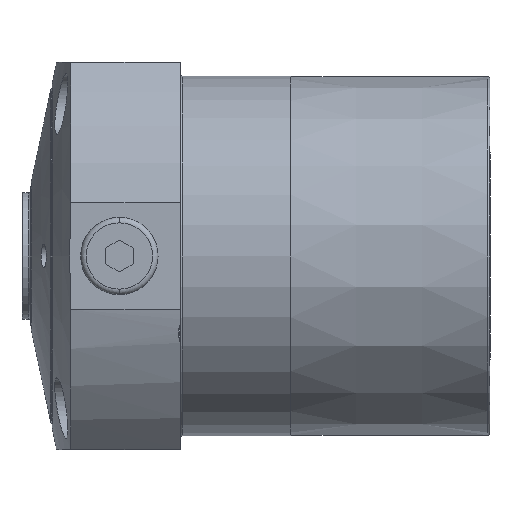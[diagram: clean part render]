
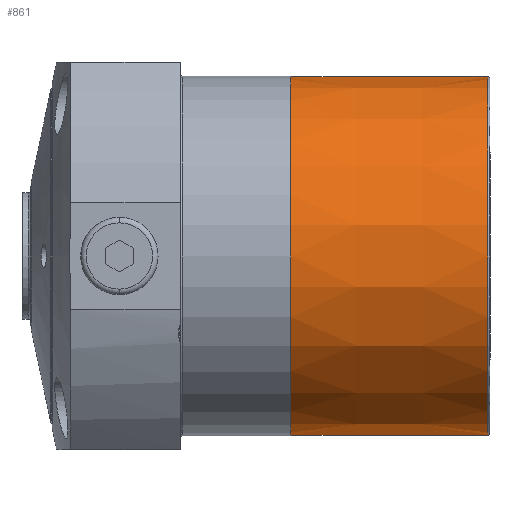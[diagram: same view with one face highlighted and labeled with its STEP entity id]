
A CAD part, left-side view. The second image highlights one B-rep face of the part: STEP entity #861.
In plain terms, the highlighted conical face has half-angle 0 degrees and reference radius 32.4 mm.
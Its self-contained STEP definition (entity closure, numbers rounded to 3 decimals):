
#149=CONICAL_SURFACE('',#3370,32.4,0.);
#522=LINE('',#5087,#678);
#523=LINE('',#5091,#679);
#678=VECTOR('',#3985,1.);
#679=VECTOR('',#3988,1.);
#861=ADVANCED_FACE('',(#1065),#149,.T.);
#1065=FACE_OUTER_BOUND('',#1268,.T.);
#1268=EDGE_LOOP('',(#1923,#1924,#1925,#1926));
#1923=ORIENTED_EDGE('',*,*,#2644,.T.);
#1924=ORIENTED_EDGE('',*,*,#2777,.T.);
#1925=ORIENTED_EDGE('',*,*,#2646,.F.);
#1926=ORIENTED_EDGE('',*,*,#2776,.F.);
#2327=VERTEX_POINT('',#5085);
#2328=VERTEX_POINT('',#5086);
#2329=VERTEX_POINT('',#5088);
#2330=VERTEX_POINT('',#5090);
#2644=EDGE_CURVE('',#2329,#2328,#522,.T.);
#2646=EDGE_CURVE('',#2330,#2327,#523,.T.);
#2776=EDGE_CURVE('',#2329,#2330,#3014,.T.);
#2777=EDGE_CURVE('',#2328,#2327,#3015,.T.);
#3014=CIRCLE('',#3367,32.4);
#3015=CIRCLE('',#3369,32.4);
#3367=AXIS2_PLACEMENT_3D('',#5420,#4250,#4251);
#3369=AXIS2_PLACEMENT_3D('',#5422,#4254,#4255);
#3370=AXIS2_PLACEMENT_3D('',#5423,#4256,#4257);
#3985=DIRECTION('',(0.,1.,0.));
#3988=DIRECTION('',(0.,1.,0.));
#4250=DIRECTION('',(0.,-1.,0.));
#4251=DIRECTION('',(0.,0.,-1.));
#4254=DIRECTION('',(0.,-1.,0.));
#4255=DIRECTION('',(0.,0.,-1.));
#4256=DIRECTION('',(0.,-1.,0.));
#4257=DIRECTION('',(0.,0.,1.));
#5085=CARTESIAN_POINT('',(0.,47.85,-32.4));
#5086=CARTESIAN_POINT('',(0.,47.85,32.4));
#5087=CARTESIAN_POINT('',(0.,47.85,32.4));
#5088=CARTESIAN_POINT('',(0.,12.25,32.4));
#5090=CARTESIAN_POINT('',(0.,12.25,-32.4));
#5091=CARTESIAN_POINT('',(0.,47.85,-32.4));
#5420=CARTESIAN_POINT('',(0.,12.25,0.));
#5422=CARTESIAN_POINT('',(0.,47.85,0.));
#5423=CARTESIAN_POINT('',(0.,47.85,0.));
